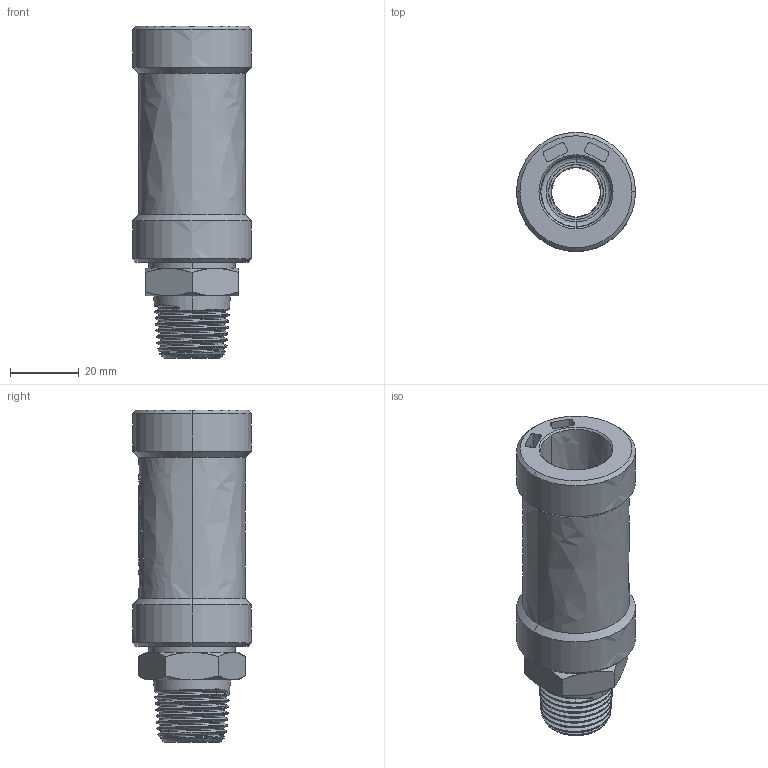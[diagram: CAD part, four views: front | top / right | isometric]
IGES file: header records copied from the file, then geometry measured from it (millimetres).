
Start section:  PTC IGES file: ustn_d20_1-2_01.igs
Global section: file name: ustn_d20_1-2_01.igs; native system: Pro/ENGINEER by Parametric Technology Corporation; preprocessor: 2011490; author: mtunjic; organization: Unknown; date: 20130823.111538; units: millimetre
Bounding box: 34.5 x 34.5 x 96.3 mm (x, y, z)
Surface area: 17443.7 mm2 (no closed solid volume)
Topology: 0 solids, 0 shells, 241 faces, 1206 edges, 1206 vertices
Faces by surface type: bspline 241
